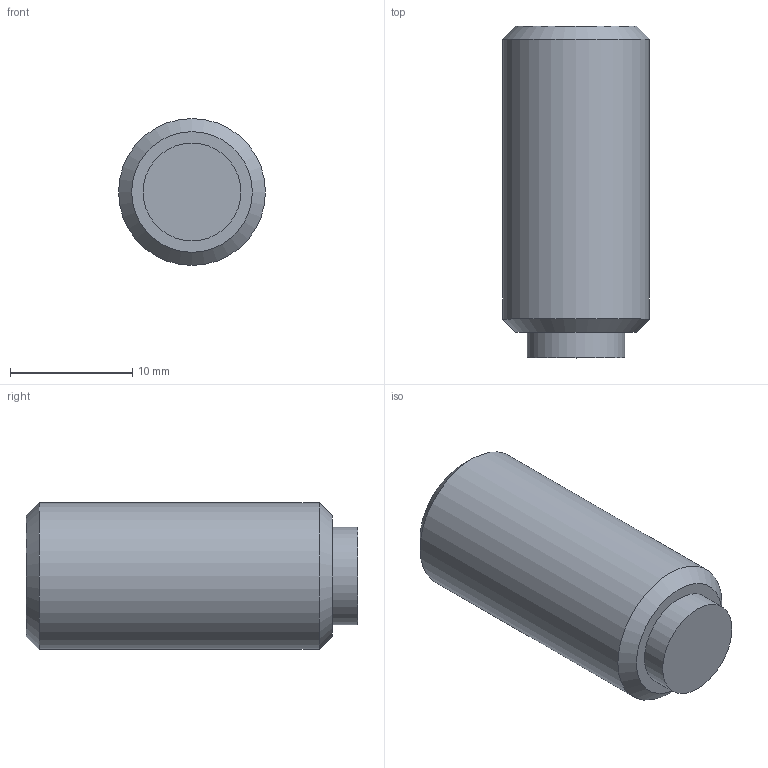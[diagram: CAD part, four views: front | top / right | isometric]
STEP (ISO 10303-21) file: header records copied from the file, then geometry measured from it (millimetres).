
FILE_DESCRIPTION( ( 'STEP AP203' ), '1' );
FILE_NAME( 'C:/Temp/Ganter_Step_05_03_2020/data/3_2/gn913_3/Grub screw GN 913.3-M12-25-KU.stp', '2020-03-13T05:35:41', ( 'License CC BY-ND 4.0' ), ( 'CADENAS' ), ' ', 'PARTsolutions', ' ' );
FILE_SCHEMA( ( 'CONFIG_CONTROL_DESIGN' ) );
Length unit declared in the file: millimetre
Products named in the file (1): _Grub screw GN 913.3-M12-25-KU
Bounding box: 12 x 27.1 x 12 mm (x, y, z)
Volume: 2642.7 mm3; surface area: 1337.3 mm2
Topology: 1 solids, 1 shells, 14 faces, 28 edges, 18 vertices
Faces by surface type: plane 10, cylinder 2, cone 2
Full cylindrical faces by diameter (mm): 8 x1, 12 x1
Entity records: 386 total; most frequent: DIRECTION 60, CARTESIAN_POINT 57, ORIENTED_EDGE 48, EDGE_CURVE 24, AXIS2_PLACEMENT_3D 21, EDGE_LOOP 20, VERTEX_POINT 18, LINE 18
